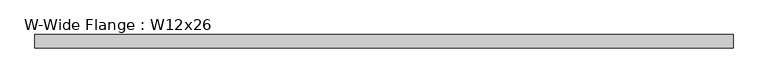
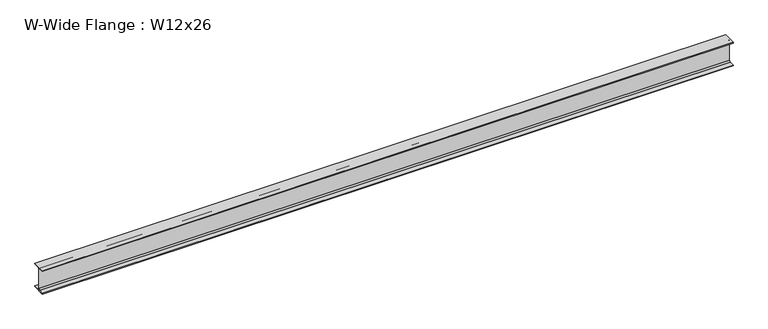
"""IFC4 building model written with IfcOpenShell, lengths in millimetres: beam geometry, W-Wide Flange : W12x26."""

from ifc_helpers import new_model, si_unit, point, frame, frame_2d, origin, place, context, project, spatial, polyline, circle_curve, trimmed, segment, composite_curve, outline, extrude, source, transform, mapped, element, save


def w_wide_flange_w12x26_42f441ab(model_context):
    return source(origin(), model_context, "Body", "SweptSolid", [
        extrude(outline(composite_curve([segment(polyline([(82.423, -145.288), (82.423, -154.94), (-82.423, -154.94), (-82.423, -145.288), (-20.2565, -145.288)]), True, "CONTINUOUS"), segment(trimmed(circle_curve(frame_2d((-20.2565, -127.9525)), 17.3355), [point((-20.2565, -145.288))], [point((-2.921, -127.9525))], True, "CARTESIAN"), True, "CONTINUOUS"), segment(polyline([(-2.921, -127.9525), (-2.921, 127.9525)]), True, "CONTINUOUS"), segment(trimmed(circle_curve(frame_2d((-20.2565, 127.9525)), 17.3355), [point((-2.921, 127.9525))], [point((-20.2565, 145.288))], True, "CARTESIAN"), True, "CONTINUOUS"), segment(polyline([(-20.2565, 145.288), (-82.423, 145.288), (-82.423, 154.94), (82.423, 154.94), (82.423, 145.288), (20.2565, 145.288)]), True, "CONTINUOUS"), segment(trimmed(circle_curve(frame_2d((20.2565, 127.9525)), 17.3355), [point((20.2565, 145.288))], [point((2.921, 127.9525))], True, "CARTESIAN"), True, "CONTINUOUS"), segment(polyline([(2.921, 127.9525), (2.921, -127.9525)]), True, "CONTINUOUS"), segment(trimmed(circle_curve(frame_2d((20.2565, -127.9525)), 17.3355), [point((2.921, -127.9525))], [point((20.2565, -145.288))], True, "CARTESIAN"), True, "CONTINUOUS"), segment(polyline([(20.2565, -145.288), (82.423, -145.288)]), True, "CONTINUOUS")], self_intersect=False)), frame((-4332.097, 0.0, 0.0), z_axis=(1.0, 0.0, 0.0), x_axis=(0.0, 1.0, 0.0)), (0.0, 0.0, 1.0), 8664.194),
    ])


if __name__ == "__main__":
    model = new_model("IFC4")
    model_context = context("Model", 3, world=origin())
    ifc_project = project(units=[si_unit("LENGTHUNIT", "METRE", prefix="MILLI")], contexts=[model_context])
    site = spatial("IfcSite", under=ifc_project)
    building = spatial("IfcBuilding", under=site)
    placement = place(None, origin())
    w_wide_flange_w12x26_shape = w_wide_flange_w12x26_42f441ab(model_context)
    element("IfcBeam", 1, ObjectType="W-Wide Flange : W12x26", at=placement, inside=building, context=model_context, shape_type="MappedRepresentation", body=[
        mapped(w_wide_flange_w12x26_shape, transform((0.0, 0.0, 0.0), x_axis=(1.0, 0.0, 0.0), y_axis=(0.0, 1.0, 0.0), z_axis=(0.0, 0.0, 1.0))),
    ])
    save(model, "model.ifc")
